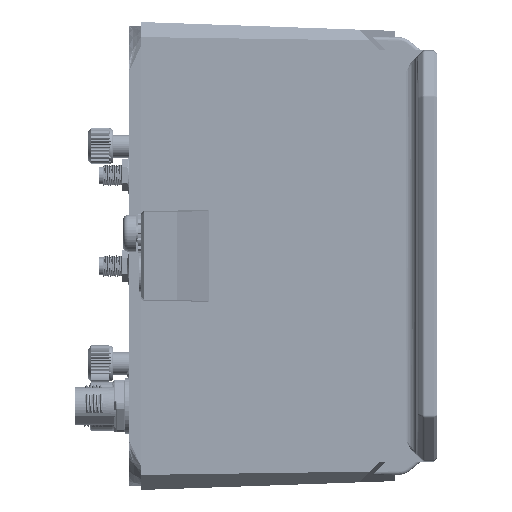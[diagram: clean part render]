
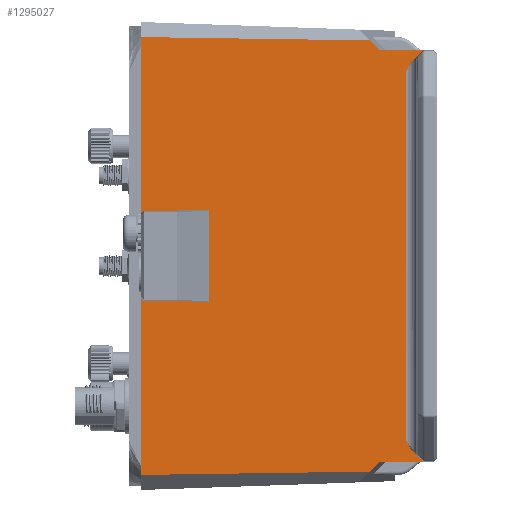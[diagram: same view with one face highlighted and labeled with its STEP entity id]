
A CAD part, left-side view. The second image highlights one B-rep face of the part: STEP entity #1295027.
In plain terms, the highlighted planar face has unit normal (-0.999, -0.035, 0).
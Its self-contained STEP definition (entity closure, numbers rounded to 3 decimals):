
#1280150=DIRECTION('',(0.035,-0.999,
0.));
#1280151=VECTOR('',#1280150,12.735);
#1280152=CARTESIAN_POINT('',(-107.661,-27.359,-59.));
#1280153=LINE('',#1280152,#1280151);
#1280154=DIRECTION('',(-0.025,0.71,
-0.704));
#1280155=VECTOR('',#1280154,3.95);
#1280156=CARTESIAN_POINT('',(-107.661,-27.359,-59.));
#1280157=LINE('',#1280156,#1280155);
#1280158=DIRECTION('',(0.,0.,1.));
#1280159=VECTOR('',#1280158,50.706);
#1280160=CARTESIAN_POINT('',(-110.048,41.,-62.727));
#1280161=LINE('',#1280160,#1280159);
#1280162=DIRECTION('',(0.,0.,1.));
#1280163=VECTOR('',#1280162,50.706);
#1280164=CARTESIAN_POINT('',(-110.048,41.,12.022));
#1280165=LINE('',#1280164,#1280163);
#1280166=DIRECTION('',(0.025,-0.71,
-0.704));
#1280167=VECTOR('',#1280166,3.95);
#1280168=CARTESIAN_POINT('',(-107.758,-24.554,
61.779));
#1280169=LINE('',#1280168,#1280167);
#1280174=DIRECTION('',(0.035,-0.999,0.014));
#1280175=VECTOR('',#1280174,65.601);
#1280176=CARTESIAN_POINT('',(-110.048,41.,-62.727));
#1280177=LINE('',#1280176,#1280175);
#1280242=DIRECTION('',(-0.035,0.999,0.014));
#1280243=VECTOR('',#1280242,65.601);
#1280244=CARTESIAN_POINT('',(-107.758,-24.554,
61.779));
#1280245=LINE('',#1280244,#1280243);
#1280382=DIRECTION('',(0.025,-0.705,0.709));
#1280383=VECTOR('',#1280382,1.419);
#1280384=CARTESIAN_POINT('',(-110.048,41.,12.022));
#1280385=LINE('',#1280384,#1280383);
#1280386=DIRECTION('',(0.035,-0.999,0.001));
#1280387=VECTOR('',#1280386,18.485);
#1280388=CARTESIAN_POINT('',(-110.013,40.,13.027));
#1280389=LINE('',#1280388,#1280387);
#1280398=DIRECTION('',(0.,0.,-1.));
#1280399=VECTOR('',#1280398,26.088);
#1280400=CARTESIAN_POINT('',(-109.368,21.526,
13.046));
#1280401=LINE('',#1280400,#1280399);
#1280418=DIRECTION('',(-0.035,0.999,0.001));
#1280419=VECTOR('',#1280418,18.485);
#1280420=CARTESIAN_POINT('',(-109.368,21.526,
-13.042));
#1280421=LINE('',#1280420,#1280419);
#1280422=DIRECTION('',(-0.025,0.706,0.708));
#1280423=VECTOR('',#1280422,1.416);
#1280424=CARTESIAN_POINT('',(-110.013,40.,-13.023));
#1280425=LINE('',#1280424,#1280423);
#1280694=DIRECTION('',(-0.035,0.999,
0.));
#1280695=VECTOR('',#1280694,12.735);
#1280696=CARTESIAN_POINT('',(-107.216,-40.086,
59.));
#1280697=LINE('',#1280696,#1280695);
#1280819=CARTESIAN_POINT('',(-107.216,-40.086,
-59.));
#1280820=CARTESIAN_POINT('',(-107.221,-39.934,
-58.951));
#1280821=CARTESIAN_POINT('',(-107.226,-39.801,
-58.869));
#1280822=CARTESIAN_POINT('',(-107.23,-39.687,
-58.756));
#1280824=DIRECTION('',(-0.025,0.707,0.707));
#1280825=VECTOR('',#1280824,4.019);
#1280826=CARTESIAN_POINT('',(-107.23,-39.687,
-58.756));
#1280827=LINE('',#1280826,#1280825);
#1280844=CARTESIAN_POINT('',(-107.329,-36.847,
-55.913));
#1280845=CARTESIAN_POINT('',(-107.333,-36.732,
-55.798));
#1280846=CARTESIAN_POINT('',(-107.341,-36.508,
-55.542));
#1280847=CARTESIAN_POINT('',(-107.352,-36.182,
-55.081));
#1280848=CARTESIAN_POINT('',(-107.363,-35.866,
-54.55));
#1280849=CARTESIAN_POINT('',(-107.374,-35.553,
-53.95));
#1280850=CARTESIAN_POINT('',(-107.385,-35.236,
-53.282));
#1280851=CARTESIAN_POINT('',(-107.393,-35.016,
-52.794));
#1280852=CARTESIAN_POINT('',(-107.397,-34.902,
-52.541));
#1280861=DIRECTION('',(0.,0.,1.));
#1280862=VECTOR('',#1280861,105.083);
#1280863=CARTESIAN_POINT('',(-107.397,-34.902,
-52.541));
#1280864=LINE('',#1280863,#1280862);
#1280889=CARTESIAN_POINT('',(-107.397,-34.902,
52.541));
#1280890=CARTESIAN_POINT('',(-107.393,-35.016,
52.794));
#1280891=CARTESIAN_POINT('',(-107.385,-35.235,
53.281));
#1280892=CARTESIAN_POINT('',(-107.374,-35.552,
53.949));
#1280893=CARTESIAN_POINT('',(-107.364,-35.865,
54.549));
#1280894=CARTESIAN_POINT('',(-107.352,-36.181,
55.08));
#1280895=CARTESIAN_POINT('',(-107.341,-36.508,
55.542));
#1280896=CARTESIAN_POINT('',(-107.333,-36.732,
55.798));
#1280897=CARTESIAN_POINT('',(-107.329,-36.847,
55.913));
#1280906=DIRECTION('',(0.025,-0.707,0.707));
#1280907=VECTOR('',#1280906,4.019);
#1280908=CARTESIAN_POINT('',(-107.329,-36.847,
55.913));
#1280909=LINE('',#1280908,#1280907);
#1281108=CARTESIAN_POINT('',(-107.23,-39.687,
58.756));
#1281109=CARTESIAN_POINT('',(-107.226,-39.801,
58.869));
#1281110=CARTESIAN_POINT('',(-107.221,-39.934,
58.951));
#1281111=CARTESIAN_POINT('',(-107.216,-40.086,
59.));
#1286971=CARTESIAN_POINT('',(-110.048,41.,12.022));
#1286973=VERTEX_POINT('',#1286971);
#1286977=CARTESIAN_POINT('',(-110.048,41.,-12.022));
#1286978=VERTEX_POINT('',#1286977);
#1287274=CARTESIAN_POINT('',(-107.661,-27.359,-59.));
#1287276=VERTEX_POINT('',#1287274);
#1287378=CARTESIAN_POINT('',(-107.661,-27.359,59.));
#1287379=VERTEX_POINT('',#1287378);
#1287512=CARTESIAN_POINT('',(-107.216,-40.086,
-59.));
#1287513=VERTEX_POINT('',#1287512);
#1287519=CARTESIAN_POINT('',(-107.758,-24.554,
-61.779));
#1287520=VERTEX_POINT('',#1287519);
#1287521=CARTESIAN_POINT('',(-110.048,41.,-62.727));
#1287522=VERTEX_POINT('',#1287521);
#1287523=CARTESIAN_POINT('',(-109.368,21.526,
-13.042));
#1287524=CARTESIAN_POINT('',(-110.013,40.,-13.023));
#1287525=VERTEX_POINT('',#1287523);
#1287526=VERTEX_POINT('',#1287524);
#1287527=CARTESIAN_POINT('',(-109.368,21.526,
13.046));
#1287528=VERTEX_POINT('',#1287527);
#1287529=CARTESIAN_POINT('',(-110.013,40.,13.027));
#1287530=VERTEX_POINT('',#1287529);
#1287531=CARTESIAN_POINT('',(-110.048,41.,62.727));
#1287532=VERTEX_POINT('',#1287531);
#1287533=CARTESIAN_POINT('',(-107.758,-24.554,
61.779));
#1287534=VERTEX_POINT('',#1287533);
#1287535=VERTEX_POINT('',#1280889);
#1287536=VERTEX_POINT('',#1280897);
#1287537=CARTESIAN_POINT('',(-107.397,-34.902,
-52.541));
#1287538=VERTEX_POINT('',#1287537);
#1287539=VERTEX_POINT('',#1280844);
#1287971=CARTESIAN_POINT('',(-107.216,-40.086,
59.));
#1287972=VERTEX_POINT('',#1287971);
#1287981=VERTEX_POINT('',#1280822);
#1287994=CARTESIAN_POINT('',(-107.23,-39.687,
58.756));
#1287995=VERTEX_POINT('',#1287994);
#1294983=CARTESIAN_POINT('',(-108.632,0.457,
0.));
#1294984=DIRECTION('',(0.999,0.035,0.));
#1294985=DIRECTION('',(0.,0.,-1.));
#1294986=AXIS2_PLACEMENT_3D('',#1294983,#1294984,#1294985);
#1294987=PLANE('',#1294986);
#1294988=ORIENTED_EDGE('',*,*,#1294176,.T.);
#1294990=ORIENTED_EDGE('',*,*,#1294989,.F.);
#1294992=ORIENTED_EDGE('',*,*,#1294991,.T.);
#1294994=ORIENTED_EDGE('',*,*,#1294993,.F.);
#1294996=ORIENTED_EDGE('',*,*,#1294995,.F.);
#1294998=ORIENTED_EDGE('',*,*,#1294997,.F.);
#1295000=ORIENTED_EDGE('',*,*,#1294999,.F.);
#1295002=ORIENTED_EDGE('',*,*,#1295001,.F.);
#1295004=ORIENTED_EDGE('',*,*,#1295003,.T.);
#1295006=ORIENTED_EDGE('',*,*,#1295005,.F.);
#1295007=ORIENTED_EDGE('',*,*,#1294682,.T.);
#1295009=ORIENTED_EDGE('',*,*,#1295008,.F.);
#1295011=ORIENTED_EDGE('',*,*,#1295010,.F.);
#1295013=ORIENTED_EDGE('',*,*,#1295012,.F.);
#1295015=ORIENTED_EDGE('',*,*,#1295014,.F.);
#1295017=ORIENTED_EDGE('',*,*,#1295016,.F.);
#1295019=ORIENTED_EDGE('',*,*,#1295018,.F.);
#1295021=ORIENTED_EDGE('',*,*,#1295020,.F.);
#1295023=ORIENTED_EDGE('',*,*,#1295022,.F.);
#1295024=ORIENTED_EDGE('',*,*,#1294970,.F.);
#1295025=EDGE_LOOP('',(#1294988,#1294990,#1294992,#1294994,#1294996,#1294998,
#1295000,#1295002,#1295004,#1295006,#1295007,#1295009,#1295011,#1295013,
#1295015,#1295017,#1295019,#1295021,#1295023,#1295024));
#1295026=FACE_OUTER_BOUND('',#1295025,.F.);
#1295027=ADVANCED_FACE('',(#1295026),#1294987,.F.);
#1280823=B_SPLINE_CURVE_WITH_KNOTS('',3,(#1280819,#1280820,#1280821,#1280822),
.UNSPECIFIED.,.F.,.F.,(4,4),(0.,1.),.UNSPECIFIED.);
#1280853=B_SPLINE_CURVE_WITH_KNOTS('',3,(#1280844,#1280845,#1280846,#1280847,
#1280848,#1280849,#1280850,#1280851,#1280852),.UNSPECIFIED.,.F.,.F.,(4,1,1,1,1,
1,4),(0.,0.167,0.333,0.5,0.667,
0.833,1.),.UNSPECIFIED.);
#1280898=B_SPLINE_CURVE_WITH_KNOTS('',3,(#1280889,#1280890,#1280891,#1280892,
#1280893,#1280894,#1280895,#1280896,#1280897),.UNSPECIFIED.,.F.,.F.,(4,1,1,1,1,
1,4),(0.,0.167,0.333,0.5,0.667,
0.833,1.),.UNSPECIFIED.);
#1281112=B_SPLINE_CURVE_WITH_KNOTS('',3,(#1281108,#1281109,#1281110,#1281111),
.UNSPECIFIED.,.F.,.F.,(4,4),(0.,1.),.UNSPECIFIED.);
#1294176=EDGE_CURVE('',#1287276,#1287520,#1280157,.T.);
#1294682=EDGE_CURVE('',#1287534,#1287379,#1280169,.T.);
#1294970=EDGE_CURVE('',#1287276,#1287513,#1280153,.T.);
#1294989=EDGE_CURVE('',#1287522,#1287520,#1280177,.T.);
#1294991=EDGE_CURVE('',#1287522,#1286978,#1280161,.T.);
#1294993=EDGE_CURVE('',#1287526,#1286978,#1280425,.T.);
#1294995=EDGE_CURVE('',#1287525,#1287526,#1280421,.T.);
#1294997=EDGE_CURVE('',#1287528,#1287525,#1280401,.T.);
#1294999=EDGE_CURVE('',#1287530,#1287528,#1280389,.T.);
#1295001=EDGE_CURVE('',#1286973,#1287530,#1280385,.T.);
#1295003=EDGE_CURVE('',#1286973,#1287532,#1280165,.T.);
#1295005=EDGE_CURVE('',#1287534,#1287532,#1280245,.T.);
#1295008=EDGE_CURVE('',#1287972,#1287379,#1280697,.T.);
#1295010=EDGE_CURVE('',#1287995,#1287972,#1281112,.T.);
#1295012=EDGE_CURVE('',#1287536,#1287995,#1280909,.T.);
#1295014=EDGE_CURVE('',#1287535,#1287536,#1280898,.T.);
#1295016=EDGE_CURVE('',#1287538,#1287535,#1280864,.T.);
#1295018=EDGE_CURVE('',#1287539,#1287538,#1280853,.T.);
#1295020=EDGE_CURVE('',#1287981,#1287539,#1280827,.T.);
#1295022=EDGE_CURVE('',#1287513,#1287981,#1280823,.T.);
